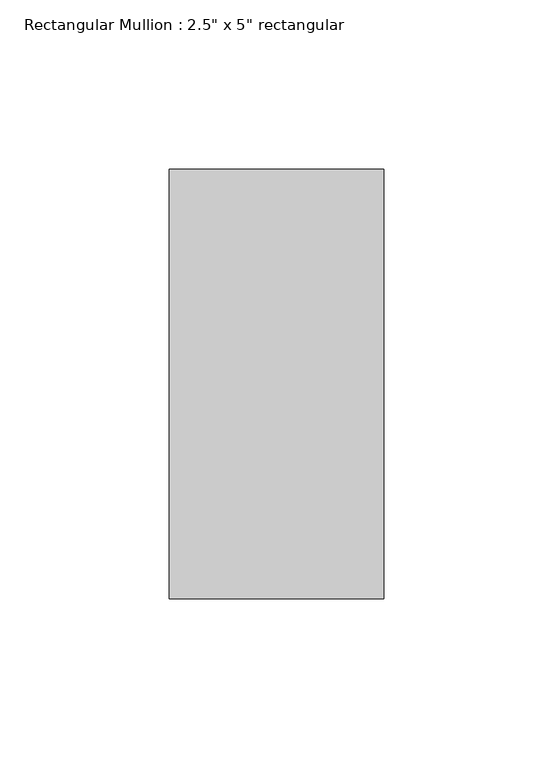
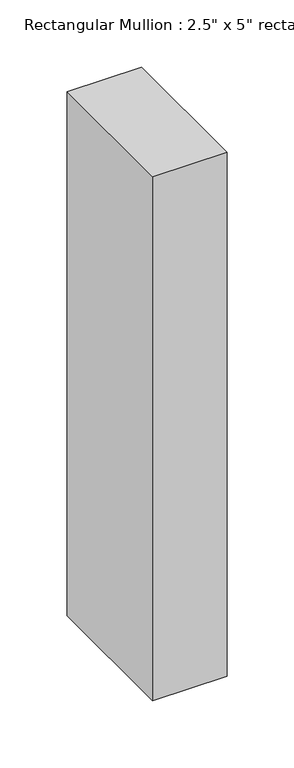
"""IFC4 building model written with IfcOpenShell, lengths in millimetres: member geometry."""

from ifc_helpers import new_model, si_unit, frame, origin, place, context, project, spatial, polyline, outline, extrude, source, transform, mapped, element, save


def member_377798e7(model_context):
    return source(origin(), model_context, "Body", "SweptSolid", [
        extrude(outline(polyline([(31.75, 63.5), (31.75, -63.5), (-31.75, -63.5), (-31.75, 63.5), (31.75, 63.5)])), frame((0.0, 0.0, -474.339503), z_axis=(0.0, 0.0, 1.0), x_axis=(1.0, 0.0, 0.0)), (0.0, 0.0, 1.0), 474.339503),
    ])


if __name__ == "__main__":
    model = new_model("IFC4")
    model_context = context("Model", 3, world=origin())
    ifc_project = project(units=[si_unit("LENGTHUNIT", "METRE", prefix="MILLI")], contexts=[model_context])
    site = spatial("IfcSite", under=ifc_project)
    building = spatial("IfcBuilding", under=site)
    placement = place(None, origin())
    member_shape = member_377798e7(model_context)
    element("IfcMember", 1, ObjectType="Rectangular Mullion : 2.5\" x 5\" rectangular", at=placement, inside=building, context=model_context, shape_type="MappedRepresentation", body=[
        mapped(member_shape, transform((0.0, 0.0, 0.0), x_axis=(1.0, 0.0, 0.0), y_axis=(0.0, 1.0, 0.0), z_axis=(0.0, 0.0, 1.0))),
    ])
    save(model, "model.ifc")
